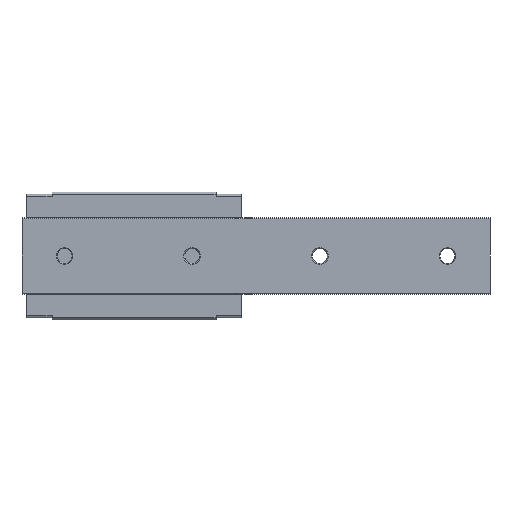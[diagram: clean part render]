
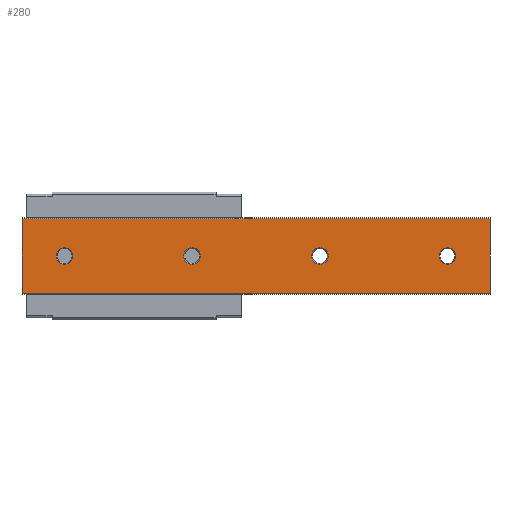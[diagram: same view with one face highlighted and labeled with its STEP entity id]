
A CAD part, front view. The second image highlights one B-rep face of the part: STEP entity #280.
In plain terms, the highlighted planar face has unit normal (0, -1, 0).
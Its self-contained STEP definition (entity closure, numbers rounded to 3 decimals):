
#280 = ADVANCED_FACE( '', ( #607, #608, #609, #610, #611 ), #612, .F. );
#607 = FACE_BOUND( '', #995, .T. );
#608 = FACE_BOUND( '', #996, .T. );
#609 = FACE_BOUND( '', #997, .T. );
#610 = FACE_BOUND( '', #998, .T. );
#611 = FACE_OUTER_BOUND( '', #999, .T. );
#612 = PLANE( '', #1000 );
#995 = EDGE_LOOP( '', ( #1684 ) );
#996 = EDGE_LOOP( '', ( #1685 ) );
#997 = EDGE_LOOP( '', ( #1686 ) );
#998 = EDGE_LOOP( '', ( #1687 ) );
#999 = EDGE_LOOP( '', ( #1688, #1689, #1690, #1691 ) );
#1000 = AXIS2_PLACEMENT_3D( '', #1692, #1693, #1694 );
#1684 = ORIENTED_EDGE( '', *, *, #2393, .F. );
#1685 = ORIENTED_EDGE( '', *, *, #2394, .F. );
#1686 = ORIENTED_EDGE( '', *, *, #2269, .F. );
#1687 = ORIENTED_EDGE( '', *, *, #2395, .F. );
#1688 = ORIENTED_EDGE( '', *, *, #2374, .T. );
#1689 = ORIENTED_EDGE( '', *, *, #2387, .F. );
#1690 = ORIENTED_EDGE( '', *, *, #2323, .F. );
#1691 = ORIENTED_EDGE( '', *, *, #2396, .T. );
#1692 = CARTESIAN_POINT( '', ( 110., 0., 8.7 ) );
#1693 = DIRECTION( '', ( 0., 1., 0. ) );
#1694 = DIRECTION( '', ( 0., 0., 1. ) );
#2269 = EDGE_CURVE( '', #2722, #2722, #2723, .T. );
#2323 = EDGE_CURVE( '', #2809, #2811, #2812, .T. );
#2374 = EDGE_CURVE( '', #2893, #2891, #2894, .T. );
#2387 = EDGE_CURVE( '', #2811, #2891, #2911, .T. );
#2393 = EDGE_CURVE( '', #2917, #2917, #2918, .T. );
#2394 = EDGE_CURVE( '', #2919, #2919, #2920, .T. );
#2395 = EDGE_CURVE( '', #2921, #2921, #2922, .T. );
#2396 = EDGE_CURVE( '', #2809, #2893, #2923, .T. );
#2722 = VERTEX_POINT( '', #3324 );
#2723 = CIRCLE( '', #3325, 1.955 );
#2809 = VERTEX_POINT( '', #3440 );
#2811 = VERTEX_POINT( '', #3443 );
#2812 = LINE( '', #3444, #3445 );
#2891 = VERTEX_POINT( '', #3557 );
#2893 = VERTEX_POINT( '', #3560 );
#2894 = LINE( '', #3561, #3562 );
#2911 = LINE( '', #3585, #3586 );
#2917 = VERTEX_POINT( '', #3594 );
#2918 = CIRCLE( '', #3595, 1.955 );
#2919 = VERTEX_POINT( '', #3596 );
#2920 = CIRCLE( '', #3597, 1.955 );
#2921 = VERTEX_POINT( '', #3598 );
#2922 = CIRCLE( '', #3599, 1.955 );
#2923 = LINE( '', #3600, #3601 );
#3324 = CARTESIAN_POINT( '', ( 100., 0., -1.955 ) );
#3325 = AXIS2_PLACEMENT_3D( '', #3931, #3932, #3933 );
#3440 = CARTESIAN_POINT( '', ( 110., 0., 8.7 ) );
#3443 = CARTESIAN_POINT( '', ( 110., 0., -8.7 ) );
#3444 = CARTESIAN_POINT( '', ( 110., 0., 8.7 ) );
#3445 = VECTOR( '', #4006, 1000. );
#3557 = CARTESIAN_POINT( '', ( 0., 0., -8.7 ) );
#3560 = CARTESIAN_POINT( '', ( 0., 0., 8.7 ) );
#3561 = CARTESIAN_POINT( '', ( 0., 0., 8.7 ) );
#3562 = VECTOR( '', #4065, 1000. );
#3585 = CARTESIAN_POINT( '', ( 110., 0., -8.7 ) );
#3586 = VECTOR( '', #4081, 1000. );
#3594 = CARTESIAN_POINT( '', ( 10., 0., -1.955 ) );
#3595 = AXIS2_PLACEMENT_3D( '', #4084, #4085, #4086 );
#3596 = CARTESIAN_POINT( '', ( 70., 0., -1.955 ) );
#3597 = AXIS2_PLACEMENT_3D( '', #4087, #4088, #4089 );
#3598 = CARTESIAN_POINT( '', ( 40., 0., -1.955 ) );
#3599 = AXIS2_PLACEMENT_3D( '', #4090, #4091, #4092 );
#3600 = CARTESIAN_POINT( '', ( 110., 0., 8.7 ) );
#3601 = VECTOR( '', #4093, 1000. );
#3931 = CARTESIAN_POINT( '', ( 100., 0., 0. ) );
#3932 = DIRECTION( '', ( 0., -1., 0. ) );
#3933 = DIRECTION( '', ( 0., 0., -1. ) );
#4006 = DIRECTION( '', ( 0., 0., -1. ) );
#4065 = DIRECTION( '', ( 0., 0., -1. ) );
#4081 = DIRECTION( '', ( -1., 0., 0. ) );
#4084 = CARTESIAN_POINT( '', ( 10., 0., 0. ) );
#4085 = DIRECTION( '', ( 0., -1., 0. ) );
#4086 = DIRECTION( '', ( 0., 0., -1. ) );
#4087 = CARTESIAN_POINT( '', ( 70., 0., 0. ) );
#4088 = DIRECTION( '', ( 0., -1., 0. ) );
#4089 = DIRECTION( '', ( 0., 0., -1. ) );
#4090 = CARTESIAN_POINT( '', ( 40., 0., 0. ) );
#4091 = DIRECTION( '', ( 0., -1., 0. ) );
#4092 = DIRECTION( '', ( 0., 0., -1. ) );
#4093 = DIRECTION( '', ( -1., 0., 0. ) );
